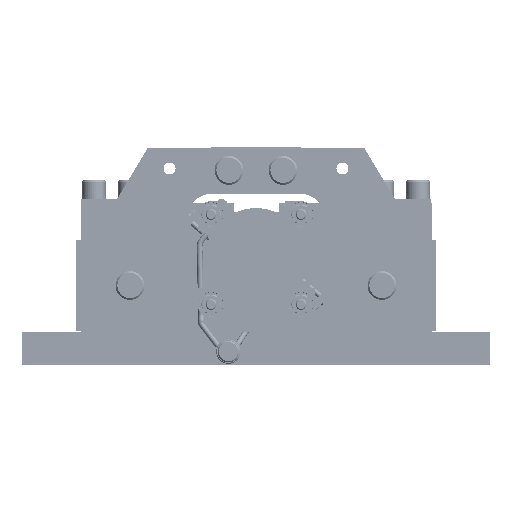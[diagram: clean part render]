
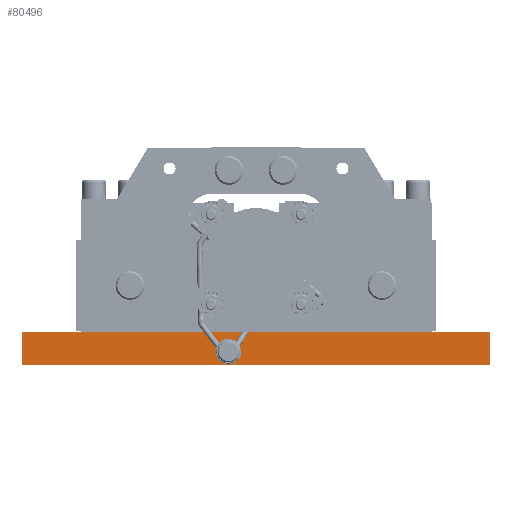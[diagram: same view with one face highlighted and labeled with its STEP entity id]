
A CAD part, front view. The second image highlights one B-rep face of the part: STEP entity #80496.
In plain terms, the highlighted planar face has unit normal (0, -1, 0).
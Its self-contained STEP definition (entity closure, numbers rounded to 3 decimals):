
#4404=PLANE('',#85303);
#7145=FACE_OUTER_BOUND('',#11733,.T.);
#11733=EDGE_LOOP('',(#51056,#51057,#51058,#51059));
#16879=LINE('',#115701,#22173);
#16912=LINE('',#115934,#22206);
#16915=LINE('',#115940,#22209);
#16916=LINE('',#115942,#22210);
#22173=VECTOR('',#93623,10.);
#22206=VECTOR('',#93892,10.);
#22209=VECTOR('',#93899,10.);
#22210=VECTOR('',#93902,10.);
#31082=VERTEX_POINT('',#115698);
#31083=VERTEX_POINT('',#115700);
#31164=VERTEX_POINT('',#115930);
#31166=VERTEX_POINT('',#115938);
#38952=EDGE_CURVE('',#31083,#31082,#16879,.T.);
#39063=EDGE_CURVE('',#31164,#31083,#16912,.T.);
#39066=EDGE_CURVE('',#31082,#31166,#16915,.T.);
#39067=EDGE_CURVE('',#31166,#31164,#16916,.T.);
#51056=ORIENTED_EDGE('',*,*,#39067,.T.);
#51057=ORIENTED_EDGE('',*,*,#39063,.T.);
#51058=ORIENTED_EDGE('',*,*,#38952,.T.);
#51059=ORIENTED_EDGE('',*,*,#39066,.T.);
#80496=ADVANCED_FACE('',(#7145),#4404,.T.);
#85303=AXIS2_PLACEMENT_3D('',#115941,#93900,#93901);
#93623=DIRECTION('',(1.,0.,0.));
#93892=DIRECTION('',(0.,0.,-1.));
#93899=DIRECTION('',(0.,0.,1.));
#93900=DIRECTION('center_axis',(0.,-1.,0.));
#93901=DIRECTION('ref_axis',(0.,0.,-1.));
#93902=DIRECTION('',(-1.,0.,0.));
#115698=CARTESIAN_POINT('',(130.,-69.85,-9.));
#115700=CARTESIAN_POINT('',(-130.,-69.85,-9.));
#115701=CARTESIAN_POINT('',(-130.,-69.85,-9.));
#115930=CARTESIAN_POINT('',(-130.,-69.85,9.));
#115934=CARTESIAN_POINT('',(-130.,-69.85,0.));
#115938=CARTESIAN_POINT('',(130.,-69.85,9.));
#115940=CARTESIAN_POINT('',(130.,-69.85,0.));
#115941=CARTESIAN_POINT('Origin',(130.,-69.85,0.));
#115942=CARTESIAN_POINT('',(-130.,-69.85,9.));
